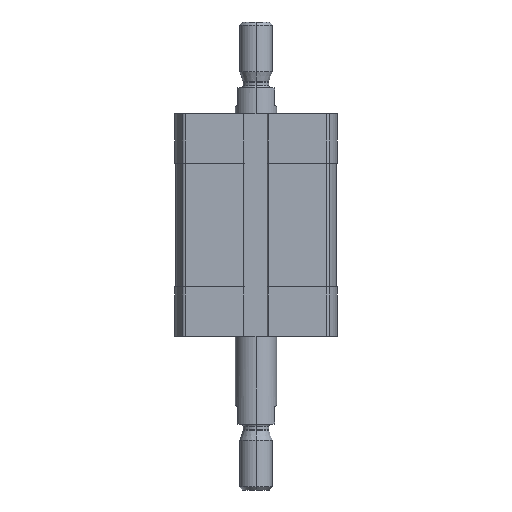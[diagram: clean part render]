
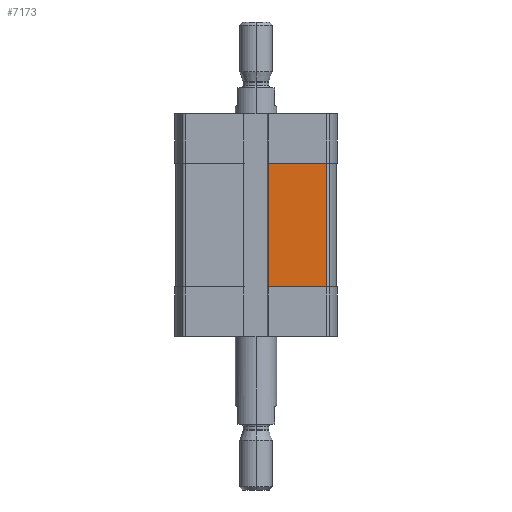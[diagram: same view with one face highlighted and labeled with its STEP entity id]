
A CAD part, left-side view. The second image highlights one B-rep face of the part: STEP entity #7173.
In plain terms, the highlighted planar face has unit normal (-1, 0, 0).
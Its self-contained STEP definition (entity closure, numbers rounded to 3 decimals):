
#399 = DIRECTION ( 'NONE',  ( 0., -1., 0. ) ) ;
#633 = ORIENTED_EDGE ( 'NONE', *, *, #11309, .F. ) ;
#1218 = CARTESIAN_POINT ( 'NONE',  ( -19.5, -17.091, -42. ) ) ;
#1426 = LINE ( 'NONE', #9702, #3322 ) ;
#2424 = FACE_OUTER_BOUND ( 'NONE', #7887, .T. ) ;
#2474 = VERTEX_POINT ( 'NONE', #4728 ) ;
#3322 = VECTOR ( 'NONE', #399, 1000. ) ;
#3443 = PLANE ( 'NONE',  #9293 ) ;
#4313 = ORIENTED_EDGE ( 'NONE', *, *, #4896, .T. ) ;
#4728 = CARTESIAN_POINT ( 'NONE',  ( -19.5, -17.091, -12. ) ) ;
#4896 = EDGE_CURVE ( 'NONE', #8464, #2474, #5526, .T. ) ;
#5405 = DIRECTION ( 'NONE',  ( 0., 0., 1. ) ) ;
#5454 = CARTESIAN_POINT ( 'NONE',  ( -19.5, -17.091, -42. ) ) ;
#5470 = CARTESIAN_POINT ( 'NONE',  ( -19.5, -3.1, -42. ) ) ;
#5526 = LINE ( 'NONE', #5454, #8991 ) ;
#5589 = DIRECTION ( 'NONE',  ( 0., 0., 1. ) ) ;
#6842 = CARTESIAN_POINT ( 'NONE',  ( -19.5, -3.1, -42. ) ) ;
#6934 = EDGE_CURVE ( 'NONE', #6948, #8464, #10527, .T. ) ;
#6948 = VERTEX_POINT ( 'NONE', #11812 ) ;
#7173 = ADVANCED_FACE ( 'NONE', ( #2424 ), #3443, .T. ) ;
#7539 = CARTESIAN_POINT ( 'NONE',  ( -19.5, -3.1, -42. ) ) ;
#7814 = ORIENTED_EDGE ( 'NONE', *, *, #12914, .F. ) ;
#7846 = VECTOR ( 'NONE', #10980, 1000. ) ;
#7887 = EDGE_LOOP ( 'NONE', ( #633, #7814, #9714, #4313 ) ) ;
#8192 = CARTESIAN_POINT ( 'NONE',  ( -19.5, -3.1, -12. ) ) ;
#8449 = DIRECTION ( 'NONE',  ( -1., 0., 0. ) ) ;
#8464 = VERTEX_POINT ( 'NONE', #1218 ) ;
#8991 = VECTOR ( 'NONE', #5589, 1000. ) ;
#9293 = AXIS2_PLACEMENT_3D ( 'NONE', #5470, #8449, #5405 ) ;
#9702 = CARTESIAN_POINT ( 'NONE',  ( -19.5, -3.1, -12. ) ) ;
#9714 = ORIENTED_EDGE ( 'NONE', *, *, #6934, .T. ) ;
#10527 = LINE ( 'NONE', #7539, #12980 ) ;
#10733 = DIRECTION ( 'NONE',  ( 0., -1., 0. ) ) ;
#10980 = DIRECTION ( 'NONE',  ( 0., 0., 1. ) ) ;
#11309 = EDGE_CURVE ( 'NONE', #13074, #2474, #1426, .T. ) ;
#11812 = CARTESIAN_POINT ( 'NONE',  ( -19.5, -3.1, -42. ) ) ;
#11996 = LINE ( 'NONE', #6842, #7846 ) ;
#12914 = EDGE_CURVE ( 'NONE', #6948, #13074, #11996, .T. ) ;
#12980 = VECTOR ( 'NONE', #10733, 1000. ) ;
#13074 = VERTEX_POINT ( 'NONE', #8192 ) ;
